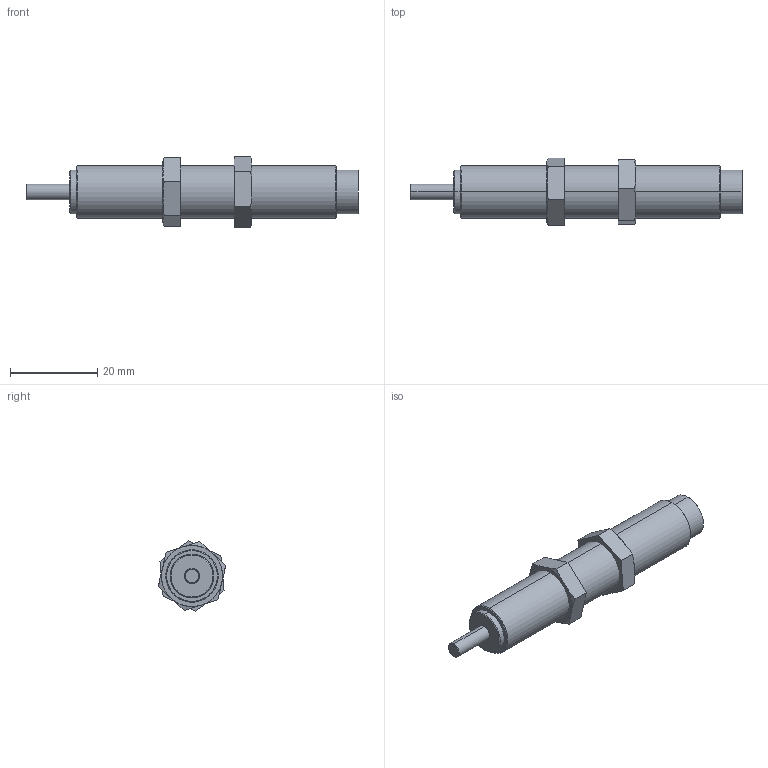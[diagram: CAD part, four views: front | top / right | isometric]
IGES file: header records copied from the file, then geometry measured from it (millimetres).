
Start section: SolidWorks IGES file using analytic representation for surfaces
Global section: file name: C:\Users\Sam Lin\Desktop\48\FSA-1210BB(CC)(CD).IGS; native system: SolidWorks 2013; preprocessor: SolidWorks 2013; author: Sam Lin; date: 160317.153246; units: metre
Bounding box: 76 x 15.44 x 16.1 mm (x, y, z)
Surface area: 3734 mm2 (no closed solid volume)
Topology: 0 solids, 0 shells, 53 faces, 788 edges, 788 vertices
Faces by surface type: bspline 33, revolution 20
